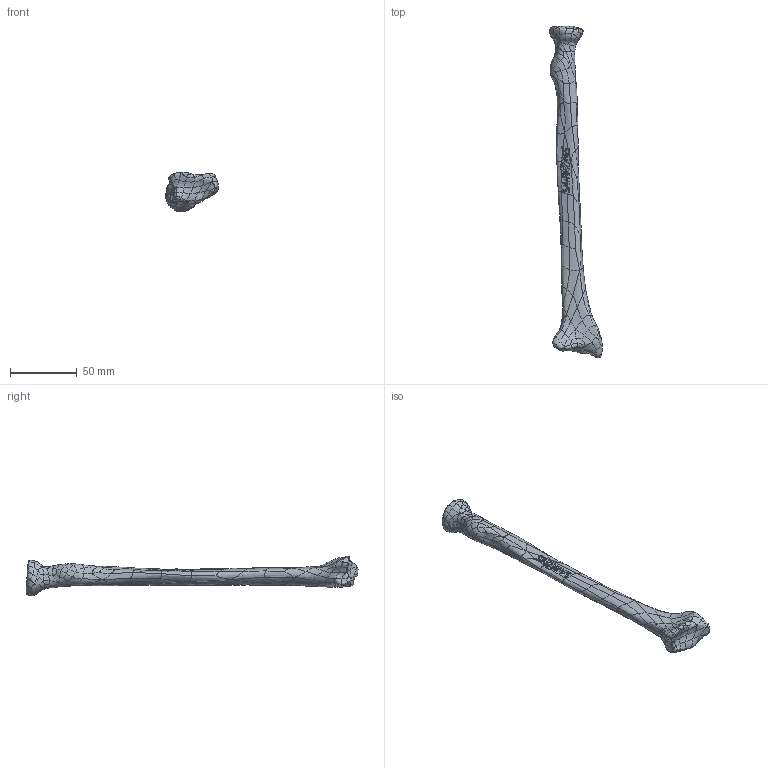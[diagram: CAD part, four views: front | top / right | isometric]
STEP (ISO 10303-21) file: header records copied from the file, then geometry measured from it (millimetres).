
FILE_DESCRIPTION (( 'STEP AP203' ), '1' );
FILE_NAME ('1018.STEP', '2025-05-21T15:45:03', ( '' ), ( '' ), 'SwSTEP 2.0', 'SolidWorks 2024', '' );
FILE_SCHEMA (( 'CONFIG_CONTROL_DESIGN' ));
Length unit declared in the file: millimetre
Products named in the file (1): 1018
Bounding box: 39.83 x 249.55 x 29.81 mm (x, y, z)
Volume: 53129.3 mm3; surface area: 14297.7 mm2
Topology: 1 solids, 1 shells, 596 faces, 1380 edges, 789 vertices
Faces by surface type: bspline 595, plane 1
Entity records: 62043 total; most frequent: CARTESIAN_POINT 53257, ORIENTED_EDGE 2760, EDGE_CURVE 1380, B_SPLINE_CURVE_WITH_KNOTS 1380, VERTEX_POINT 789, EDGE_LOOP 599, ADVANCED_FACE 596, FACE_OUTER_BOUND 596
